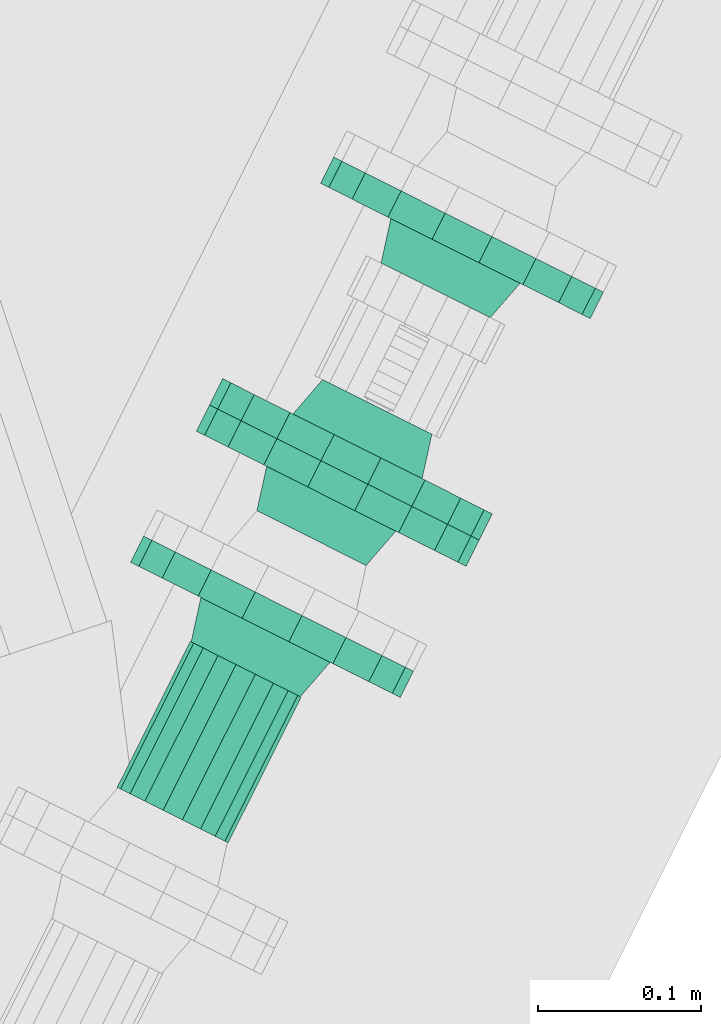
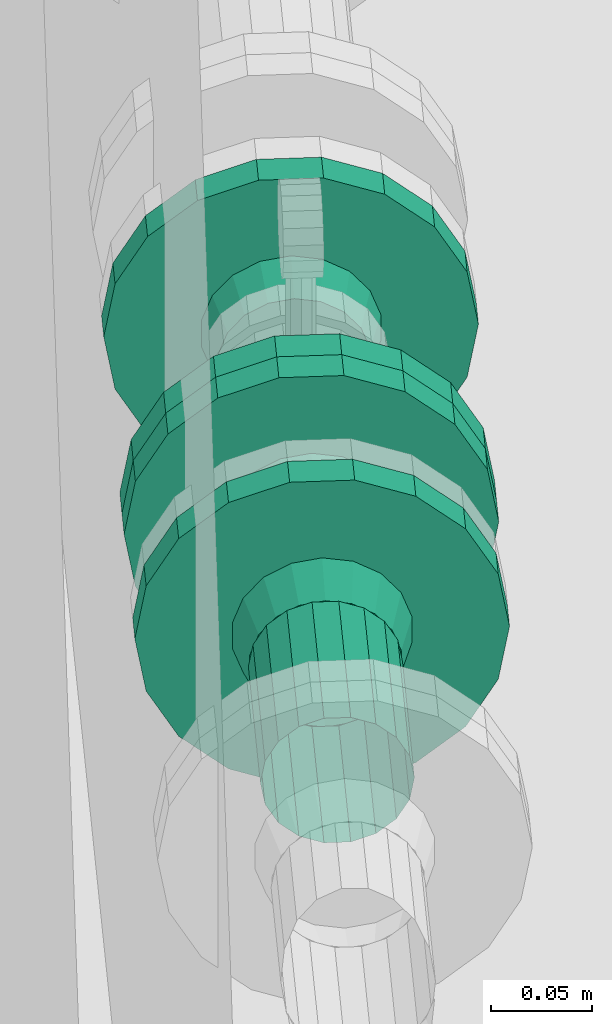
# One storey, part 79 of 206: 4 flow fittings, 1 flow segment.
"""IFC2X3 building model written with IfcOpenShell, lengths in metres."""

from ifc_helpers import new_model, si_unit, derived_unit, direction, frame, origin, place, context, subcontext, project, spatial, face_set, surface_model, source, transform, mapped, material, type_object, type_shapes, element, save


model = new_model("IFC2X3")

# Units and contexts
model_context = context("Model", 3, precision=5.2338327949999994e-05, world=origin(), true_north=direction((0.0, 1.0)))
body_context = subcontext(model_context, "Body", "Model", "MODEL_VIEW")
ifc_project = project(units=[si_unit("LENGTHUNIT", "METRE"), si_unit("AREAUNIT", "SQUARE_METRE"), si_unit("VOLUMEUNIT", "CUBIC_METRE"), si_unit("MASSUNIT", "GRAM", prefix="KILO"), si_unit("PLANEANGLEUNIT", "RADIAN"), derived_unit("THERMALTRANSMITTANCEUNIT", [(si_unit("MASSUNIT", "GRAM", prefix="KILO"), 1), (si_unit("THERMODYNAMICTEMPERATUREUNIT", "KELVIN"), -1), (si_unit("TIMEUNIT", "SECOND"), -3)])], contexts=[model_context])

# Site, building, storey
site_placement = place(None, frame((0.0, 0.0, 0.0), z_axis=(0.0, 0.0, 1.0), x_axis=(0.8939966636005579, -0.4480736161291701, 0.0)))
site = spatial("IfcSite", under=ifc_project, at=site_placement, Name="Default", CompositionType="ELEMENT")
building_placement = place(site_placement, origin())
building = spatial("IfcBuilding", under=site, at=building_placement, CompositionType="ELEMENT")
storey_placement = place(building_placement, origin())
storey = spatial("IfcBuildingStorey", under=building, at=storey_placement, Name="Erdgeschoss", CompositionType="ELEMENT", Elevation=0.0)

# Flow fittings
ifc_material = material(Name="IfcSurfaceStyle #352577")
distribution_element_type_1 = type_object("IfcDistributionElementType", Name="Flansch 604615:Flansch 604615", material=ifc_material)
shared_shape_1 = source(origin(), body_context, "Body", "SurfaceModel", [
    surface_model("IfcFaceBasedSurfaceModel", [(27.353142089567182, 5.99795839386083, 0.8699999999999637), (27.358720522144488, 5.99795839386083, 0.8383631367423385), (27.358720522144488, 5.979958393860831, 0.8383631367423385), (27.353142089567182, 5.979958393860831, 0.8699999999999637), (27.37478297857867, 5.99795839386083, 0.8105421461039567), (27.37478297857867, 5.979958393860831, 0.8105421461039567), (27.399392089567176, 5.99795839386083, 0.7898926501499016), (27.399392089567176, 5.979958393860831, 0.7898926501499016), (27.429579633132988, 5.99795839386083, 0.778905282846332), (27.429579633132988, 5.979958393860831, 0.778905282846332), (27.46170454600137, 5.99795839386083, 0.7789052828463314), (27.46170454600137, 5.979958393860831, 0.7789052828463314), (27.491892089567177, 5.99795839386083, 0.7898926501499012), (27.491892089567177, 5.979958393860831, 0.7898926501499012), (27.516501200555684, 5.99795839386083, 0.8105421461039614), (27.516501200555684, 5.979958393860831, 0.8105421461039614), (27.532563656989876, 5.99795839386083, 0.8383631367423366), (27.532563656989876, 5.979958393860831, 0.8383631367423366), (27.538142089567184, 5.99795839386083, 0.8699999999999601), (27.538142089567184, 5.979958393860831, 0.8699999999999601), (27.532563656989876, 5.99795839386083, 0.9016368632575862), (27.532563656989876, 5.979958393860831, 0.9016368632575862), (27.516501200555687, 5.99795839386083, 0.9294578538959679), (27.516501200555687, 5.979958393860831, 0.9294578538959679), (27.491892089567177, 5.99795839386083, 0.9501073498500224), (27.491892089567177, 5.979958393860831, 0.9501073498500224), (27.46170454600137, 5.99795839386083, 0.9610947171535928), (27.46170454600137, 5.979958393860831, 0.9610947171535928), (27.429579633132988, 5.99795839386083, 0.9610947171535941), (27.429579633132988, 5.979958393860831, 0.9610947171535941), (27.399392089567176, 5.99795839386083, 0.9501073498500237), (27.399392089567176, 5.979958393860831, 0.9501073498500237), (27.37478297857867, 5.99795839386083, 0.9294578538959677), (27.37478297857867, 5.979958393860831, 0.9294578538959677), (27.358720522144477, 5.99795839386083, 0.9016368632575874), (27.358720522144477, 5.979958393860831, 0.9016368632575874), (27.44564208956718, 5.979958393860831, 0.8699999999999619), (27.44564208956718, 5.979958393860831, 0.8249999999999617), (27.461032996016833, 5.979958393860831, 0.8277138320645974), (27.45865595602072, 5.952958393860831, 0.8342446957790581), (27.44564208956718, 5.952958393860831, 0.8319499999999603), (27.47456753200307, 5.97995839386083, 0.8355280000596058), (27.470100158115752, 5.95295839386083, 0.8408520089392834), (27.48461323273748, 5.979958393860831, 0.8474999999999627), (27.478594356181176, 5.952958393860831, 0.8509749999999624), (27.489958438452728, 5.979958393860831, 0.8621858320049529), (27.483114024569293, 5.952958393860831, 0.8633926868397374), (27.489958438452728, 5.979958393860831, 0.8778141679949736), (27.48311402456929, 5.952958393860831, 0.8766073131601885), (27.484613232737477, 5.979958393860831, 0.8924999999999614), (27.478594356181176, 5.952958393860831, 0.8890249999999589), (27.47456753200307, 5.979958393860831, 0.9044719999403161), (27.470100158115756, 5.952958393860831, 0.8991479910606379), (27.46103299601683, 5.979958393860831, 0.9122861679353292), (27.45865595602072, 5.952958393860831, 0.9057553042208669), (27.44564208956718, 5.979958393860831, 0.91499999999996), (27.44564208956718, 5.952958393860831, 0.9080499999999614), (27.430251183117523, 5.979958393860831, 0.9122861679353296), (27.432628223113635, 5.952958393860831, 0.905755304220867), (27.416716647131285, 5.979958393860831, 0.9044719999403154), (27.421184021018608, 5.952958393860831, 0.8991479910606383), (27.406670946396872, 5.979958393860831, 0.8924999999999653), (27.412689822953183, 5.952958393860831, 0.8890249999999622), (27.401325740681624, 5.979958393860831, 0.8778141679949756), (27.40817015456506, 5.952958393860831, 0.8766073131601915), (27.401325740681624, 5.979958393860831, 0.8621858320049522), (27.40817015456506, 5.952958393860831, 0.8633926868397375), (27.40667094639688, 5.979958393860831, 0.8474999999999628), (27.412689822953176, 5.952958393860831, 0.8509749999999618), (27.416716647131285, 5.979958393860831, 0.8355280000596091), (27.421184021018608, 5.952958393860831, 0.8408520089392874), (27.430251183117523, 5.979958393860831, 0.827713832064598), (27.432628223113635, 5.952958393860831, 0.8342446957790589)], [face_set([[[0, 1, 2, 3]], [[1, 4, 5, 2]], [[4, 6, 7, 5]], [[6, 8, 9, 7]], [[8, 10, 11, 9]], [[10, 12, 13, 11]], [[12, 14, 15, 13]], [[14, 16, 17, 15]], [[16, 18, 19, 17]], [[18, 20, 21, 19]], [[20, 22, 23, 21]], [[22, 24, 25, 23]], [[24, 26, 27, 25]], [[26, 28, 29, 27]], [[28, 30, 31, 29]], [[30, 32, 33, 31]], [[32, 34, 35, 33]], [[34, 0, 3, 35]], [[36, 35, 3]], [[36, 33, 35]], [[36, 31, 33]], [[36, 29, 31]], [[36, 27, 29]], [[36, 25, 27]], [[36, 23, 25]], [[36, 21, 23]], [[36, 19, 21]], [[36, 17, 19]], [[36, 15, 17]], [[36, 13, 15]], [[36, 11, 13]], [[36, 9, 11]], [[36, 7, 9]], [[36, 5, 7]], [[36, 2, 5]], [[36, 3, 2]], [[37, 38, 39, 40]], [[38, 41, 42, 39]], [[41, 43, 44, 42]], [[43, 45, 46, 44]], [[45, 47, 48, 46]], [[47, 49, 50, 48]], [[49, 51, 52, 50]], [[51, 53, 54, 52]], [[53, 55, 56, 54]], [[55, 57, 58, 56]], [[57, 59, 60, 58]], [[59, 61, 62, 60]], [[61, 63, 64, 62]], [[63, 65, 66, 64]], [[65, 67, 68, 66]], [[67, 69, 70, 68]], [[69, 71, 72, 70]], [[71, 37, 40, 72]]])]),
])
type_shapes(distribution_element_type_1, [shared_shape_1])
flow_fitting_1_placement = place(storey_placement, origin())
element("IfcFlowFitting", 1, at=flow_fitting_1_placement, inside=storey, type_object=distribution_element_type_1, material=ifc_material, Name="Flansch", ObjectType="Flansch", context=body_context, shape_type="MappedRepresentation", body=[
    mapped(shared_shape_1, transform((0.0, 0.0, 0.0), scale=1.0)),
])
distribution_element_type_2 = type_object("IfcDistributionElementType", Name="Flansch 604730:Flansch 604730", material=ifc_material)
shared_shape_2 = source(origin(), body_context, "Body", "SurfaceModel", [
    surface_model("IfcFaceBasedSurfaceModel", [(27.353142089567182, 6.167958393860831, 0.8699999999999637), (27.358720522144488, 6.167958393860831, 0.8383631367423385), (27.358720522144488, 6.14995839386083, 0.8383631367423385), (27.353142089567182, 6.14995839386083, 0.8699999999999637), (27.37478297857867, 6.167958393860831, 0.8105421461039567), (27.37478297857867, 6.14995839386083, 0.8105421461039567), (27.399392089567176, 6.167958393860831, 0.7898926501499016), (27.399392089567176, 6.14995839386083, 0.7898926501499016), (27.429579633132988, 6.167958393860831, 0.778905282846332), (27.429579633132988, 6.14995839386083, 0.778905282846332), (27.46170454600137, 6.167958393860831, 0.7789052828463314), (27.46170454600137, 6.14995839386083, 0.7789052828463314), (27.491892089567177, 6.167958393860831, 0.7898926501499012), (27.491892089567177, 6.14995839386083, 0.7898926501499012), (27.516501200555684, 6.167958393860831, 0.8105421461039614), (27.516501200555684, 6.14995839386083, 0.8105421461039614), (27.532563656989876, 6.167958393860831, 0.8383631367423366), (27.532563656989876, 6.14995839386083, 0.8383631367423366), (27.538142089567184, 6.167958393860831, 0.8699999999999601), (27.538142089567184, 6.14995839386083, 0.8699999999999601), (27.532563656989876, 6.167958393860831, 0.9016368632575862), (27.532563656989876, 6.14995839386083, 0.9016368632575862), (27.516501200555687, 6.167958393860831, 0.9294578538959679), (27.516501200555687, 6.14995839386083, 0.9294578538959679), (27.491892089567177, 6.167958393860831, 0.9501073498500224), (27.491892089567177, 6.14995839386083, 0.9501073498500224), (27.46170454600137, 6.167958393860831, 0.9610947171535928), (27.46170454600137, 6.14995839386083, 0.9610947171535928), (27.429579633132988, 6.167958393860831, 0.9610947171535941), (27.429579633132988, 6.14995839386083, 0.9610947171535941), (27.399392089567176, 6.167958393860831, 0.9501073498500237), (27.399392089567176, 6.14995839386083, 0.9501073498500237), (27.37478297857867, 6.167958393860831, 0.9294578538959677), (27.37478297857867, 6.14995839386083, 0.9294578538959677), (27.358720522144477, 6.167958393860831, 0.9016368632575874), (27.358720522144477, 6.14995839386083, 0.9016368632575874), (27.44564208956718, 6.149958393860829, 0.8699999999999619), (27.44564208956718, 6.14995839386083, 0.8249999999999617), (27.461032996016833, 6.14995839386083, 0.8277138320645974), (27.45865595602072, 6.12295839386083, 0.8342446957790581), (27.44564208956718, 6.12295839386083, 0.8319499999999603), (27.47456753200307, 6.149958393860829, 0.8355280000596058), (27.470100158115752, 6.122958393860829, 0.8408520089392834), (27.48461323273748, 6.14995839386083, 0.8474999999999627), (27.478594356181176, 6.12295839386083, 0.8509749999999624), (27.489958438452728, 6.14995839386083, 0.8621858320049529), (27.483114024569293, 6.12295839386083, 0.8633926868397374), (27.489958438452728, 6.14995839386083, 0.8778141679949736), (27.48311402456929, 6.12295839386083, 0.8766073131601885), (27.484613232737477, 6.14995839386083, 0.8924999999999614), (27.478594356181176, 6.12295839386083, 0.8890249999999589), (27.47456753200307, 6.14995839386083, 0.9044719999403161), (27.470100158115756, 6.12295839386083, 0.8991479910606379), (27.46103299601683, 6.14995839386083, 0.9122861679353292), (27.45865595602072, 6.12295839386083, 0.9057553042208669), (27.44564208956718, 6.14995839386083, 0.91499999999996), (27.44564208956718, 6.12295839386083, 0.9080499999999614), (27.430251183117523, 6.14995839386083, 0.9122861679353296), (27.432628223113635, 6.12295839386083, 0.905755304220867), (27.416716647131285, 6.14995839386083, 0.9044719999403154), (27.421184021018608, 6.12295839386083, 0.8991479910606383), (27.406670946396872, 6.14995839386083, 0.8924999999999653), (27.412689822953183, 6.12295839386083, 0.8890249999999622), (27.401325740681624, 6.14995839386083, 0.8778141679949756), (27.40817015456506, 6.12295839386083, 0.8766073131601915), (27.401325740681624, 6.14995839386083, 0.8621858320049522), (27.40817015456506, 6.12295839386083, 0.8633926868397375), (27.40667094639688, 6.14995839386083, 0.8474999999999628), (27.412689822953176, 6.12295839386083, 0.8509749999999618), (27.416716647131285, 6.14995839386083, 0.8355280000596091), (27.421184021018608, 6.12295839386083, 0.8408520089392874), (27.430251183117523, 6.14995839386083, 0.827713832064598), (27.432628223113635, 6.12295839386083, 0.8342446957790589)], [face_set([[[0, 1, 2, 3]], [[1, 4, 5, 2]], [[4, 6, 7, 5]], [[6, 8, 9, 7]], [[8, 10, 11, 9]], [[10, 12, 13, 11]], [[12, 14, 15, 13]], [[14, 16, 17, 15]], [[16, 18, 19, 17]], [[18, 20, 21, 19]], [[20, 22, 23, 21]], [[22, 24, 25, 23]], [[24, 26, 27, 25]], [[26, 28, 29, 27]], [[28, 30, 31, 29]], [[30, 32, 33, 31]], [[32, 34, 35, 33]], [[34, 0, 3, 35]], [[36, 35, 3]], [[36, 33, 35]], [[36, 31, 33]], [[36, 29, 31]], [[36, 27, 29]], [[36, 25, 27]], [[36, 23, 25]], [[36, 21, 23]], [[36, 19, 21]], [[36, 17, 19]], [[36, 15, 17]], [[36, 13, 15]], [[36, 11, 13]], [[36, 9, 11]], [[36, 7, 9]], [[36, 5, 7]], [[36, 2, 5]], [[36, 3, 2]], [[37, 38, 39, 40]], [[38, 41, 42, 39]], [[41, 43, 44, 42]], [[43, 45, 46, 44]], [[45, 47, 48, 46]], [[47, 49, 50, 48]], [[49, 51, 52, 50]], [[51, 53, 54, 52]], [[53, 55, 56, 54]], [[55, 57, 58, 56]], [[57, 59, 60, 58]], [[59, 61, 62, 60]], [[61, 63, 64, 62]], [[63, 65, 66, 64]], [[65, 67, 68, 66]], [[67, 69, 70, 68]], [[69, 71, 72, 70]], [[71, 37, 40, 72]]])]),
])
type_shapes(distribution_element_type_2, [shared_shape_2])
flow_fitting_2_placement = place(storey_placement, origin())
element("IfcFlowFitting", 2, at=flow_fitting_2_placement, inside=storey, type_object=distribution_element_type_2, material=ifc_material, Name="Flansch", ObjectType="Flansch", context=body_context, shape_type="MappedRepresentation", body=[
    mapped(shared_shape_2, transform((0.0, 0.0, 0.0), scale=1.0)),
])

# Flow segment
distribution_element_type_3 = type_object("IfcDistributionElementType", Name="Stahlrohr nach DIN 2448 604751:Stahlrohr nach DIN 2448 604751", material=ifc_material)
shared_shape_3 = source(origin(), body_context, "Body", "SurfaceModel", [
    surface_model("IfcFaceBasedSurfaceModel", [(27.407592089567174, 5.862958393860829, 0.8699999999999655), (27.40988678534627, 5.862958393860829, 0.8569861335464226), (27.40988678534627, 5.76295839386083, 0.8569861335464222), (27.407592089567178, 5.76295839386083, 0.8699999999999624), (27.416494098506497, 5.862958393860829, 0.8455419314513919), (27.416494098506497, 5.76295839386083, 0.8455419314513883), (27.426617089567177, 5.862958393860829, 0.8370477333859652), (27.426617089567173, 5.76295839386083, 0.8370477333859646), (27.43903477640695, 5.862958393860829, 0.8325280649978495), (27.43903477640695, 5.76295839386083, 0.8325280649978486), (27.4522494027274, 5.862958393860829, 0.8325280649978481), (27.4522494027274, 5.76295839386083, 0.8325280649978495), (27.464667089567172, 5.862958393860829, 0.8370477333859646), (27.464667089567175, 5.76295839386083, 0.8370477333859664), (27.47479008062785, 5.862958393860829, 0.845541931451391), (27.47479008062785, 5.76295839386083, 0.8455419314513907), (27.481397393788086, 5.862958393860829, 0.8569861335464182), (27.48139739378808, 5.76295839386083, 0.8569861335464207), (27.483692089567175, 5.862958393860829, 0.8699999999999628), (27.483692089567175, 5.76295839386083, 0.8699999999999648), (27.481397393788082, 5.862958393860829, 0.883013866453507), (27.481397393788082, 5.76295839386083, 0.883013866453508), (27.474790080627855, 5.862958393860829, 0.8944580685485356), (27.47479008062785, 5.76295839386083, 0.8944580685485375), (27.464667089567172, 5.862958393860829, 0.9029522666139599), (27.464667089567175, 5.76295839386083, 0.9029522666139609), (27.452249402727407, 5.862958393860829, 0.9074719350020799), (27.4522494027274, 5.76295839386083, 0.9074719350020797), (27.439034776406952, 5.862958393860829, 0.9074719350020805), (27.43903477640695, 5.76295839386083, 0.9074719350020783), (27.42661708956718, 5.862958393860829, 0.9029522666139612), (27.426617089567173, 5.76295839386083, 0.9029522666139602), (27.416494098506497, 5.862958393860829, 0.8944580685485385), (27.416494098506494, 5.76295839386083, 0.8944580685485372), (27.40988678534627, 5.862958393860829, 0.8830138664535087), (27.40988678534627, 5.76295839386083, 0.8830138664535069)], [face_set([[[0, 1, 2, 3]], [[1, 4, 5, 2]], [[4, 6, 7, 5]], [[6, 8, 9, 7]], [[8, 10, 11, 9]], [[10, 12, 13, 11]], [[12, 14, 15, 13]], [[14, 16, 17, 15]], [[16, 18, 19, 17]], [[18, 20, 21, 19]], [[20, 22, 23, 21]], [[22, 24, 25, 23]], [[24, 26, 27, 25]], [[26, 28, 29, 27]], [[28, 30, 31, 29]], [[30, 32, 33, 31]], [[32, 34, 35, 33]], [[34, 0, 3, 35]]])]),
])
type_shapes(distribution_element_type_3, [shared_shape_3])
flow_segment_placement = place(storey_placement, origin())
element("IfcFlowSegment", 3, at=flow_segment_placement, inside=storey, type_object=distribution_element_type_3, material=ifc_material, Name="Stahlrohr nach DIN 2448", ObjectType="Stahlrohr nach DIN 2448", context=body_context, shape_type="MappedRepresentation", body=[
    mapped(shared_shape_3, transform((0.0, 0.0, 0.0), scale=1.0)),
])

# Flow fittings
distribution_element_type_4 = type_object("IfcDistributionElementType", Name="Flansch 604843:Flansch 604843", material=ifc_material)
shared_shape_4 = source(origin(), body_context, "Body", "SurfaceModel", [
    surface_model("IfcFaceBasedSurfaceModel", [(27.353142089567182, 5.99795839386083, 0.8699999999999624), (27.358720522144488, 5.99795839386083, 0.9016368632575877), (27.358720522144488, 6.0159583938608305, 0.9016368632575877), (27.353142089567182, 6.0159583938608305, 0.8699999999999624), (27.37478297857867, 5.99795839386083, 0.9294578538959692), (27.37478297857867, 6.0159583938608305, 0.9294578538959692), (27.399392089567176, 5.99795839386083, 0.950107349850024), (27.399392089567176, 6.0159583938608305, 0.950107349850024), (27.429579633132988, 5.99795839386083, 0.9610947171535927), (27.429579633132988, 6.0159583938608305, 0.9610947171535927), (27.46170454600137, 5.99795839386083, 0.9610947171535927), (27.46170454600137, 6.0159583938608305, 0.9610947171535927), (27.491892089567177, 5.99795839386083, 0.9501073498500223), (27.491892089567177, 6.0159583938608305, 0.9501073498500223), (27.516501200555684, 5.99795839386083, 0.9294578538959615), (27.516501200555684, 6.0159583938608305, 0.9294578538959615), (27.532563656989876, 5.99795839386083, 0.9016368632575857), (27.532563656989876, 6.0159583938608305, 0.9016368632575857), (27.538142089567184, 5.99795839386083, 0.8699999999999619), (27.538142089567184, 6.0159583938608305, 0.8699999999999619), (27.532563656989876, 5.99795839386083, 0.838363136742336), (27.532563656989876, 6.0159583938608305, 0.838363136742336), (27.516501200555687, 5.99795839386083, 0.8105421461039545), (27.516501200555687, 6.0159583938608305, 0.8105421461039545), (27.491892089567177, 5.99795839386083, 0.7898926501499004), (27.491892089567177, 6.0159583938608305, 0.7898926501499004), (27.461704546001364, 5.99795839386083, 0.7789052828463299), (27.461704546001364, 6.0159583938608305, 0.7789052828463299), (27.429579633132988, 5.99795839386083, 0.7789052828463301), (27.429579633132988, 6.0159583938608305, 0.7789052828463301), (27.399392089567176, 5.99795839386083, 0.7898926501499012), (27.399392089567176, 6.0159583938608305, 0.7898926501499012), (27.37478297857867, 5.99795839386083, 0.8105421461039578), (27.37478297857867, 6.0159583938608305, 0.8105421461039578), (27.358720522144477, 5.99795839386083, 0.8383631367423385), (27.358720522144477, 6.0159583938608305, 0.8383631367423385), (27.445642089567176, 6.01595839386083, 0.8699999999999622), (27.44564208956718, 6.0159583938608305, 0.9149999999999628), (27.461032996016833, 6.0159583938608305, 0.9122861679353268), (27.45865595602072, 6.04295839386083, 0.9057553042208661), (27.44564208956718, 6.04295839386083, 0.9080499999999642), (27.47456753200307, 6.015958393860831, 0.9044719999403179), (27.470100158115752, 6.042958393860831, 0.8991479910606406), (27.48461323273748, 6.0159583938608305, 0.892499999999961), (27.478594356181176, 6.04295839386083, 0.8890249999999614), (27.48995843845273, 6.0159583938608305, 0.8778141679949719), (27.48311402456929, 6.04295839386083, 0.8766073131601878), (27.489958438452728, 6.015958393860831, 0.8621858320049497), (27.48311402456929, 6.042958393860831, 0.8633926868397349), (27.484613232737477, 6.0159583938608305, 0.8474999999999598), (27.478594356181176, 6.04295839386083, 0.8509749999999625), (27.47456753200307, 6.0159583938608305, 0.835528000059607), (27.470100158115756, 6.04295839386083, 0.8408520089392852), (27.46103299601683, 6.0159583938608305, 0.8277138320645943), (27.458655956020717, 6.04295839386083, 0.8342446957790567), (27.44564208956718, 6.0159583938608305, 0.8249999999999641), (27.44564208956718, 6.04295839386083, 0.8319499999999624), (27.430251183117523, 6.0159583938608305, 0.8277138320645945), (27.432628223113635, 6.04295839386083, 0.8342446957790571), (27.416716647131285, 6.0159583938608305, 0.8355280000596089), (27.421184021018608, 6.04295839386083, 0.8408520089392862), (27.406670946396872, 6.0159583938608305, 0.8474999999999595), (27.412689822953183, 6.04295839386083, 0.8509749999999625), (27.401325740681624, 6.0159583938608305, 0.8621858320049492), (27.40817015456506, 6.04295839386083, 0.8633926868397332), (27.401325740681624, 6.0159583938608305, 0.877814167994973), (27.40817015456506, 6.04295839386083, 0.8766073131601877), (27.40667094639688, 6.0159583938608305, 0.8924999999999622), (27.412689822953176, 6.04295839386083, 0.8890249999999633), (27.416716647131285, 6.0159583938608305, 0.904471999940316), (27.421184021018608, 6.04295839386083, 0.8991479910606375), (27.430251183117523, 6.0159583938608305, 0.9122861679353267), (27.432628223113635, 6.04295839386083, 0.9057553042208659)], [face_set([[[0, 1, 2, 3]], [[1, 4, 5, 2]], [[4, 6, 7, 5]], [[6, 8, 9, 7]], [[8, 10, 11, 9]], [[10, 12, 13, 11]], [[12, 14, 15, 13]], [[14, 16, 17, 15]], [[16, 18, 19, 17]], [[18, 20, 21, 19]], [[20, 22, 23, 21]], [[22, 24, 25, 23]], [[24, 26, 27, 25]], [[26, 28, 29, 27]], [[28, 30, 31, 29]], [[30, 32, 33, 31]], [[32, 34, 35, 33]], [[34, 0, 3, 35]], [[36, 35, 3]], [[36, 33, 35]], [[36, 31, 33]], [[36, 29, 31]], [[36, 27, 29]], [[36, 25, 27]], [[36, 23, 25]], [[36, 21, 23]], [[36, 19, 21]], [[36, 17, 19]], [[36, 15, 17]], [[36, 13, 15]], [[36, 11, 13]], [[36, 9, 11]], [[36, 7, 9]], [[36, 5, 7]], [[36, 2, 5]], [[36, 3, 2]], [[37, 38, 39, 40]], [[38, 41, 42, 39]], [[41, 43, 44, 42]], [[43, 45, 46, 44]], [[45, 47, 48, 46]], [[47, 49, 50, 48]], [[49, 51, 52, 50]], [[51, 53, 54, 52]], [[53, 55, 56, 54]], [[55, 57, 58, 56]], [[57, 59, 60, 58]], [[59, 61, 62, 60]], [[61, 63, 64, 62]], [[63, 65, 66, 64]], [[65, 67, 68, 66]], [[67, 69, 70, 68]], [[69, 71, 72, 70]], [[71, 37, 40, 72]]])]),
])
type_shapes(distribution_element_type_4, [shared_shape_4])
flow_fitting_3_placement = place(storey_placement, origin())
element("IfcFlowFitting", 4, at=flow_fitting_3_placement, inside=storey, type_object=distribution_element_type_4, material=ifc_material, Name="Flansch", ObjectType="Flansch", context=body_context, shape_type="MappedRepresentation", body=[
    mapped(shared_shape_4, transform((0.0, 0.0, 0.0), scale=1.0)),
])
distribution_element_type_5 = type_object("IfcDistributionElementType", Name="Flansch 604864:Flansch 604864", material=ifc_material)
shared_shape_5 = source(origin(), body_context, "Body", "SurfaceModel", [
    surface_model("IfcFaceBasedSurfaceModel", [(27.353142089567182, 5.90795839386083, 0.8699999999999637), (27.358720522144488, 5.90795839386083, 0.8383631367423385), (27.358720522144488, 5.88995839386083, 0.8383631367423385), (27.353142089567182, 5.88995839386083, 0.8699999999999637), (27.37478297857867, 5.90795839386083, 0.8105421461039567), (27.37478297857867, 5.88995839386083, 0.8105421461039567), (27.399392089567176, 5.90795839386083, 0.7898926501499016), (27.399392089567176, 5.88995839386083, 0.7898926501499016), (27.429579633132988, 5.90795839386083, 0.778905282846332), (27.429579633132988, 5.88995839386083, 0.778905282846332), (27.46170454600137, 5.90795839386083, 0.7789052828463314), (27.46170454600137, 5.88995839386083, 0.7789052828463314), (27.491892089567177, 5.90795839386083, 0.7898926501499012), (27.491892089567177, 5.88995839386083, 0.7898926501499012), (27.516501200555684, 5.90795839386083, 0.8105421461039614), (27.516501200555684, 5.88995839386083, 0.8105421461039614), (27.532563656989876, 5.90795839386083, 0.8383631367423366), (27.532563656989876, 5.88995839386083, 0.8383631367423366), (27.538142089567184, 5.90795839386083, 0.8699999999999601), (27.538142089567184, 5.88995839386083, 0.8699999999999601), (27.532563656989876, 5.90795839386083, 0.9016368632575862), (27.532563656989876, 5.88995839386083, 0.9016368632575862), (27.516501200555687, 5.90795839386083, 0.9294578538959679), (27.516501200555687, 5.88995839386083, 0.9294578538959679), (27.491892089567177, 5.90795839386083, 0.9501073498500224), (27.491892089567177, 5.88995839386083, 0.9501073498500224), (27.46170454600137, 5.90795839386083, 0.9610947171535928), (27.46170454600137, 5.88995839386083, 0.9610947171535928), (27.429579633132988, 5.90795839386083, 0.9610947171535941), (27.429579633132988, 5.88995839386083, 0.9610947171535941), (27.399392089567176, 5.90795839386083, 0.9501073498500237), (27.399392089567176, 5.88995839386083, 0.9501073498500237), (27.37478297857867, 5.90795839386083, 0.9294578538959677), (27.37478297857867, 5.88995839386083, 0.9294578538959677), (27.358720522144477, 5.90795839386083, 0.9016368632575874), (27.358720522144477, 5.88995839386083, 0.9016368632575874), (27.44564208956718, 5.88995839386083, 0.8699999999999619), (27.44564208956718, 5.88995839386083, 0.8249999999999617), (27.461032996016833, 5.88995839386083, 0.8277138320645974), (27.45865595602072, 5.862958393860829, 0.8342446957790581), (27.44564208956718, 5.862958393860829, 0.8319499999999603), (27.47456753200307, 5.889958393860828, 0.8355280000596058), (27.470100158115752, 5.862958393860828, 0.8408520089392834), (27.48461323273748, 5.88995839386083, 0.8474999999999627), (27.478594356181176, 5.862958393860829, 0.8509749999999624), (27.489958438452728, 5.88995839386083, 0.8621858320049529), (27.483114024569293, 5.862958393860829, 0.8633926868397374), (27.489958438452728, 5.88995839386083, 0.8778141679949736), (27.48311402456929, 5.862958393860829, 0.8766073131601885), (27.484613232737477, 5.88995839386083, 0.8924999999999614), (27.478594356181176, 5.862958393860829, 0.8890249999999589), (27.47456753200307, 5.88995839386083, 0.9044719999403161), (27.470100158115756, 5.862958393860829, 0.8991479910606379), (27.46103299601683, 5.88995839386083, 0.9122861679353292), (27.45865595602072, 5.862958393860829, 0.9057553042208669), (27.44564208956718, 5.88995839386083, 0.91499999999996), (27.44564208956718, 5.862958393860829, 0.9080499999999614), (27.430251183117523, 5.88995839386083, 0.9122861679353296), (27.432628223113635, 5.862958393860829, 0.905755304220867), (27.416716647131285, 5.88995839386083, 0.9044719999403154), (27.421184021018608, 5.862958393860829, 0.8991479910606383), (27.406670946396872, 5.88995839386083, 0.8924999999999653), (27.412689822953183, 5.862958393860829, 0.8890249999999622), (27.401325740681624, 5.88995839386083, 0.8778141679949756), (27.40817015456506, 5.862958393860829, 0.8766073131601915), (27.401325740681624, 5.88995839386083, 0.8621858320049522), (27.40817015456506, 5.862958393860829, 0.8633926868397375), (27.40667094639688, 5.88995839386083, 0.8474999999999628), (27.412689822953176, 5.862958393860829, 0.8509749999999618), (27.416716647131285, 5.88995839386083, 0.8355280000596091), (27.421184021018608, 5.862958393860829, 0.8408520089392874), (27.430251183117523, 5.88995839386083, 0.827713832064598), (27.432628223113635, 5.862958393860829, 0.8342446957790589)], [face_set([[[0, 1, 2, 3]], [[1, 4, 5, 2]], [[4, 6, 7, 5]], [[6, 8, 9, 7]], [[8, 10, 11, 9]], [[10, 12, 13, 11]], [[12, 14, 15, 13]], [[14, 16, 17, 15]], [[16, 18, 19, 17]], [[18, 20, 21, 19]], [[20, 22, 23, 21]], [[22, 24, 25, 23]], [[24, 26, 27, 25]], [[26, 28, 29, 27]], [[28, 30, 31, 29]], [[30, 32, 33, 31]], [[32, 34, 35, 33]], [[34, 0, 3, 35]], [[36, 35, 3]], [[36, 33, 35]], [[36, 31, 33]], [[36, 29, 31]], [[36, 27, 29]], [[36, 25, 27]], [[36, 23, 25]], [[36, 21, 23]], [[36, 19, 21]], [[36, 17, 19]], [[36, 15, 17]], [[36, 13, 15]], [[36, 11, 13]], [[36, 9, 11]], [[36, 7, 9]], [[36, 5, 7]], [[36, 2, 5]], [[36, 3, 2]], [[37, 38, 39, 40]], [[38, 41, 42, 39]], [[41, 43, 44, 42]], [[43, 45, 46, 44]], [[45, 47, 48, 46]], [[47, 49, 50, 48]], [[49, 51, 52, 50]], [[51, 53, 54, 52]], [[53, 55, 56, 54]], [[55, 57, 58, 56]], [[57, 59, 60, 58]], [[59, 61, 62, 60]], [[61, 63, 64, 62]], [[63, 65, 66, 64]], [[65, 67, 68, 66]], [[67, 69, 70, 68]], [[69, 71, 72, 70]], [[71, 37, 40, 72]]])]),
])
type_shapes(distribution_element_type_5, [shared_shape_5])
flow_fitting_4_placement = place(storey_placement, origin())
element("IfcFlowFitting", 5, at=flow_fitting_4_placement, inside=storey, type_object=distribution_element_type_5, material=ifc_material, Name="Flansch", ObjectType="Flansch", context=body_context, shape_type="MappedRepresentation", body=[
    mapped(shared_shape_5, transform((0.0, 0.0, 0.0), scale=1.0)),
])

save(model, "model.ifc")
